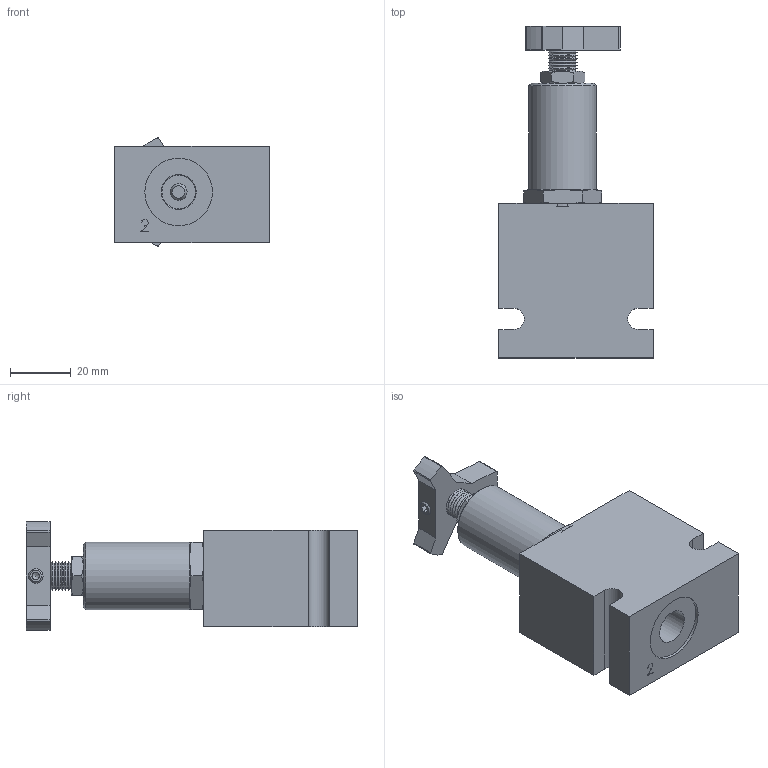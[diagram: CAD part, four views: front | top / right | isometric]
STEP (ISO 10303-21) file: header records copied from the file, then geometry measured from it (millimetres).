
FILE_DESCRIPTION( ( 'Unknown' ), '1' );
FILE_NAME( 'G:/Graphic Design/Graphic Design 2/Data Sheets/PRESSURE CONTROLS/2_STEP/Direct Acting Relief Valves/D-PBRVA0K-A2.stp', 'Unknown', ( 'Unknown' ), ( 'Unknown' ), 'PSStep 16.0.42', 'Unknown', ' ' );
FILE_SCHEMA( ( 'AUTOMOTIVE_DESIGN { 1 0 10303 214 1 1 1 1 }' ) );
Length unit declared in the file: millimetre
Products named in the file (9): PBRVA0K; PBRVA0K-3D Full1; PBRVA0K-3D Full2; PBRVA0K-3D Full3; PBRVA0K-3D Full4; PBRVA0K-3D Full5; PBRVA0K-3D Full6; Assem1; B-DPBA2
Assembly tree (8 placements, depth 3):
  Assem1
    B-DPBA2
    PBRVA0K
      PBRVA0K-3D Full1
      PBRVA0K-3D Full2
      PBRVA0K-3D Full3
      PBRVA0K-3D Full4
      PBRVA0K-3D Full5
      PBRVA0K-3D Full6
Bounding box: 50.8 x 109.08 x 35.54 mm (x, y, z)
Surface area: 24533.7 mm2 (no closed solid volume)
Topology: 0 solids, 290 shells, 290 faces, 1209 edges, 1090 vertices
Faces by surface type: plane 130, cone 109, cylinder 49, torus 2
Full cylindrical faces by diameter (mm): 0.2 x2, 1.524 x1, 1.778 x6, 2.388 x1, 4.775 x1, 5.563 x1, 6.35 x1, 7.891 x1, 7.95 x1, 9.525 x1, 9.842 x1, 9.928 x1, 10.5 x1, 11 x1, 11.5 x4, 12.62 x1, 12.624 x2, 12.7 x1, 13.5 x1, 14.275 x1, 16.751 x1, 17.33 x2, 22.22 x2, 22.225 x2
Entity records: 14616 total; most frequent: CARTESIAN_POINT 3846, DIRECTION 1712, VERTEX_POINT 1074, ORIENTED_EDGE 1070, EDGE_CURVE 1070, AXIS2_PLACEMENT_3D 692, FACE_BOUND 434, EDGE_LOOP 430
